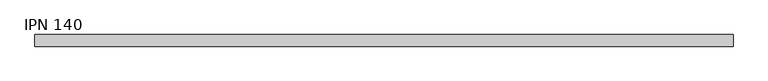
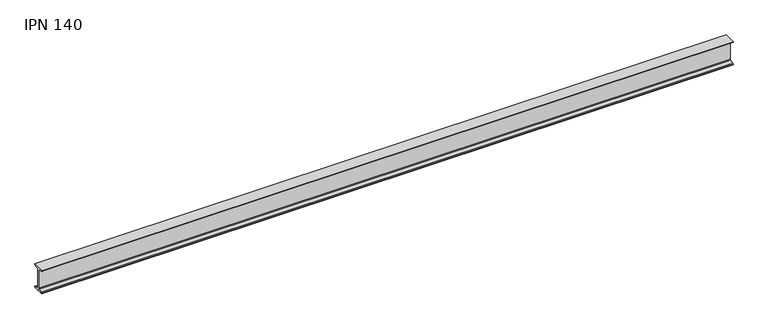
"""IFC4 building model written with IfcOpenShell, lengths in millimetres: beam geometry, IPN - Secciones en I con alas cónicas : IPN 140."""

from ifc_helpers import new_model, si_unit, point, frame, frame_2d, origin, place, context, project, spatial, polyline, circle_curve, trimmed, segment, composite_curve, outline, extrude, source, transform, mapped, element, save


def ipn_140_f65621e1(model_context):
    return source(origin(), model_context, "Body", "SweptSolid", [
        extrude(outline(composite_curve([segment(polyline([(33.0, 70.0), (33.0, 66.6671583)]), True, "CONTINUOUS"), segment(trimmed(circle_curve(frame_2d((29.6, 66.6671583)), 3.4), [point((33.0, 66.6671583))], [point((30.0714027, 63.2999964))], False, "CARTESIAN"), True, "CONTINUOUS"), segment(polyline([(30.0714027, 63.2999964), (7.7597073, 60.176359)]), True, "CONTINUOUS"), segment(trimmed(circle_curve(frame_2d((8.55, 54.5314111)), 5.7), [point((7.7597073, 60.176359))], [point((2.85, 54.5314111))], True, "CARTESIAN"), True, "CONTINUOUS"), segment(polyline([(2.85, 54.5314111), (2.85, -54.5314111)]), True, "CONTINUOUS"), segment(trimmed(circle_curve(frame_2d((8.55, -54.5314111)), 5.7), [point((2.85, -54.5314111))], [point((7.7597073, -60.176359))], True, "CARTESIAN"), True, "CONTINUOUS"), segment(polyline([(7.7597073, -60.176359), (30.0714027, -63.2999964)]), True, "CONTINUOUS"), segment(trimmed(circle_curve(frame_2d((29.6, -66.6671583)), 3.4), [point((30.0714027, -63.2999964))], [point((33.0, -66.6671583))], False, "CARTESIAN"), True, "CONTINUOUS"), segment(polyline([(33.0, -66.6671583), (33.0, -70.0), (-33.0, -70.0), (-33.0, -66.6671583)]), True, "CONTINUOUS"), segment(trimmed(circle_curve(frame_2d((-29.6, -66.6671583)), 3.4), [point((-33.0, -66.6671583))], [point((-30.0714027, -63.2999964))], False, "CARTESIAN"), True, "CONTINUOUS"), segment(polyline([(-30.0714027, -63.2999964), (-7.7597073, -60.176359)]), True, "CONTINUOUS"), segment(trimmed(circle_curve(frame_2d((-8.55, -54.5314111)), 5.7), [point((-7.7597073, -60.176359))], [point((-2.85, -54.5314111))], True, "CARTESIAN"), True, "CONTINUOUS"), segment(polyline([(-2.85, -54.5314111), (-2.85, 54.5314111)]), True, "CONTINUOUS"), segment(trimmed(circle_curve(frame_2d((-8.55, 54.5314111)), 5.7), [point((-2.85, 54.5314111))], [point((-7.7597073, 60.176359))], True, "CARTESIAN"), True, "CONTINUOUS"), segment(polyline([(-7.7597073, 60.176359), (-30.0714027, 63.2999964)]), True, "CONTINUOUS"), segment(trimmed(circle_curve(frame_2d((-29.6, 66.6671583)), 3.4), [point((-30.0714027, 63.2999964))], [point((-33.0, 66.6671583))], False, "CARTESIAN"), True, "CONTINUOUS"), segment(polyline([(-33.0, 66.6671583), (-33.0, 70.0), (33.0, 70.0)]), True, "CONTINUOUS")], self_intersect=False)), frame((-2296.0, 0.0, 0.0), z_axis=(1.0, 0.0, 0.0), x_axis=(0.0, 1.0, 0.0)), (0.0, 0.0, 1.0), 3966.0),
    ])


if __name__ == "__main__":
    model = new_model("IFC4")
    model_context = context("Model", 3, world=origin())
    ifc_project = project(units=[si_unit("LENGTHUNIT", "METRE", prefix="MILLI")], contexts=[model_context])
    site = spatial("IfcSite", under=ifc_project)
    building = spatial("IfcBuilding", under=site)
    placement = place(None, origin())
    ipn_140_shape = ipn_140_f65621e1(model_context)
    element("IfcBeam", 1, ObjectType="IPN - Secciones en I con alas cónicas : IPN 140", at=placement, inside=building, context=model_context, shape_type="MappedRepresentation", body=[
        mapped(ipn_140_shape, transform((0.0, 0.0, 0.0), x_axis=(1.0, 0.0, 0.0), y_axis=(0.0, 1.0, 0.0), z_axis=(0.0, 0.0, 1.0))),
    ])
    save(model, "model.ifc")
